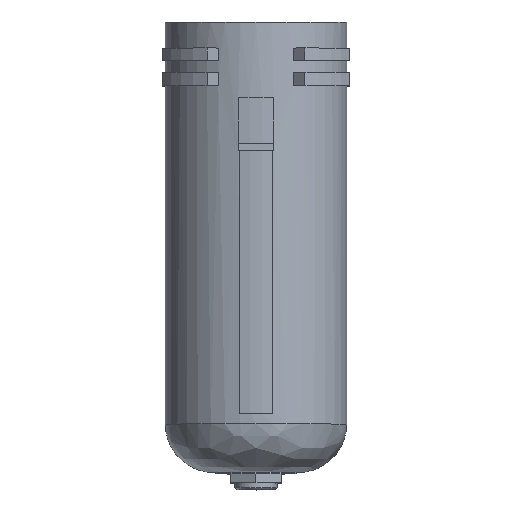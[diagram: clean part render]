
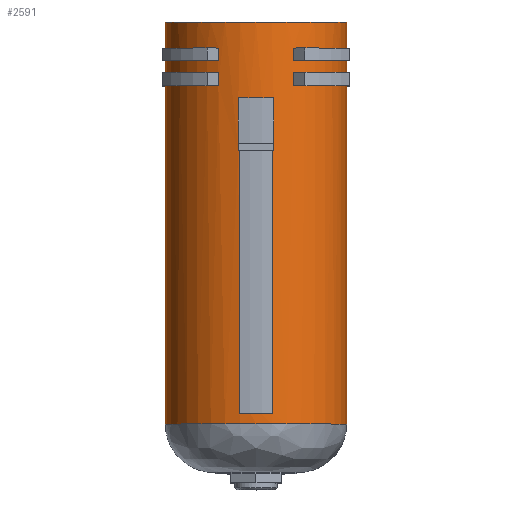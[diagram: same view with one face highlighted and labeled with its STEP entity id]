
A CAD part, top view. The second image highlights one B-rep face of the part: STEP entity #2591.
In plain terms, the highlighted cylindrical face has radius 30 mm (diameter 60 mm), a partial arc.
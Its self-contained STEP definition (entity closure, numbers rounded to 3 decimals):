
#178=DIRECTION('',(0.,-1.,0.));
#179=VECTOR('',#178,4.);
#180=CARTESIAN_POINT('',(-27.296,-8.6,12.447));
#181=LINE('',#180,#179);
#182=CARTESIAN_POINT('',(0.,-12.6,0.));
#183=DIRECTION('',(0.,-1.,0.));
#184=DIRECTION('',(-0.415,0.,0.91));
#185=AXIS2_PLACEMENT_3D('',#182,#183,#184);
#187=DIRECTION('',(0.,-1.,0.));
#188=VECTOR('',#187,4.);
#189=CARTESIAN_POINT('',(-12.447,-8.6,27.296));
#190=LINE('',#189,#188);
#191=CARTESIAN_POINT('',(0.,-8.6,0.));
#192=DIRECTION('',(0.,1.,0.));
#193=DIRECTION('',(-0.91,0.,0.415));
#194=AXIS2_PLACEMENT_3D('',#191,#192,#193);
#196=DIRECTION('',(0.,-1.,0.));
#197=VECTOR('',#196,4.);
#198=CARTESIAN_POINT('',(12.447,-8.6,27.296));
#199=LINE('',#198,#197);
#200=CARTESIAN_POINT('',(0.,-12.6,0.));
#201=DIRECTION('',(0.,-1.,0.));
#202=DIRECTION('',(0.91,0.,0.415));
#203=AXIS2_PLACEMENT_3D('',#200,#201,#202);
#205=DIRECTION('',(0.,-1.,0.));
#206=VECTOR('',#205,4.);
#207=CARTESIAN_POINT('',(27.296,-8.6,12.447));
#208=LINE('',#207,#206);
#209=CARTESIAN_POINT('',(0.,-8.6,0.));
#210=DIRECTION('',(0.,1.,0.));
#211=DIRECTION('',(0.415,0.,0.91));
#212=AXIS2_PLACEMENT_3D('',#209,#210,#211);
#214=CARTESIAN_POINT('',(0.,-133.,0.));
#215=DIRECTION('',(0.,-1.,0.));
#216=DIRECTION('',(1.,0.,0.));
#217=AXIS2_PLACEMENT_3D('',#214,#215,#216);
#219=DIRECTION('',(0.,-1.,0.));
#220=VECTOR('',#219,4.5);
#221=CARTESIAN_POINT('',(27.296,-16.6,12.447));
#222=LINE('',#221,#220);
#223=DIRECTION('',(0.,-1.,0.));
#224=VECTOR('',#223,4.5);
#225=CARTESIAN_POINT('',(12.447,-16.6,27.296));
#226=LINE('',#225,#224);
#227=CARTESIAN_POINT('',(0.,-21.1,0.));
#228=DIRECTION('',(0.,-1.,0.));
#229=DIRECTION('',(0.91,0.,0.415));
#230=AXIS2_PLACEMENT_3D('',#227,#228,#229);
#232=DIRECTION('',(0.,-1.,0.));
#233=VECTOR('',#232,4.5);
#234=CARTESIAN_POINT('',(-12.447,-16.6,27.296));
#235=LINE('',#234,#233);
#236=DIRECTION('',(0.,-1.,0.));
#237=VECTOR('',#236,4.5);
#238=CARTESIAN_POINT('',(-27.296,-16.6,12.447));
#239=LINE('',#238,#237);
#240=CARTESIAN_POINT('',(0.,-21.1,0.));
#241=DIRECTION('',(0.,-1.,0.));
#242=DIRECTION('',(-0.415,0.,0.91));
#243=AXIS2_PLACEMENT_3D('',#240,#241,#242);
#245=CARTESIAN_POINT('',(0.,-25.1,0.));
#246=DIRECTION('',(0.,-1.,0.));
#247=DIRECTION('',(0.195,0.,0.981));
#248=AXIS2_PLACEMENT_3D('',#245,#246,#247);
#250=CARTESIAN_POINT('',(0.,-42.6,0.));
#251=DIRECTION('',(0.,-1.,0.));
#252=DIRECTION('',(-0.183,0.,0.983));
#253=AXIS2_PLACEMENT_3D('',#250,#251,#252);
#255=DIRECTION('',(0.,-1.,0.));
#256=VECTOR('',#255,87.);
#257=CARTESIAN_POINT('',(-5.5,-42.6,29.492));
#258=LINE('',#257,#256);
#259=CARTESIAN_POINT('',(0.,-129.6,0.));
#260=DIRECTION('',(0.,-1.,0.));
#261=DIRECTION('',(0.183,0.,0.983));
#262=AXIS2_PLACEMENT_3D('',#259,#260,#261);
#264=DIRECTION('',(0.,-1.,0.));
#265=VECTOR('',#264,87.);
#266=CARTESIAN_POINT('',(5.5,-42.6,29.492));
#267=LINE('',#266,#265);
#268=CARTESIAN_POINT('',(0.,-42.6,0.));
#269=DIRECTION('',(0.,-1.,0.));
#270=DIRECTION('',(0.195,0.,0.981));
#271=AXIS2_PLACEMENT_3D('',#268,#269,#270);
#273=DIRECTION('',(0.,1.,0.));
#274=VECTOR('',#273,17.5);
#275=CARTESIAN_POINT('',(5.85,-42.6,29.424));
#276=LINE('',#275,#274);
#290=CARTESIAN_POINT('',(0.,-16.6,0.));
#291=DIRECTION('',(0.,-1.,0.));
#292=DIRECTION('',(0.91,0.,0.415));
#293=AXIS2_PLACEMENT_3D('',#290,#291,#292);
#300=CARTESIAN_POINT('',(0.,-16.6,0.));
#301=DIRECTION('',(0.,-1.,0.));
#302=DIRECTION('',(-0.415,0.,0.91));
#303=AXIS2_PLACEMENT_3D('',#300,#301,#302);
#383=DIRECTION('',(0.,1.,0.));
#384=VECTOR('',#383,133.);
#385=CARTESIAN_POINT('',(30.,-133.,0.));
#386=LINE('',#385,#384);
#387=DIRECTION('',(0.,1.,0.));
#388=VECTOR('',#387,133.);
#389=CARTESIAN_POINT('',(-30.,-133.,0.));
#390=LINE('',#389,#388);
#697=CARTESIAN_POINT('',(0.,0.,0.));
#698=DIRECTION('',(0.,-1.,0.));
#699=DIRECTION('',(1.,0.,0.));
#700=AXIS2_PLACEMENT_3D('',#697,#698,#699);
#819=DIRECTION('',(0.,1.,0.));
#820=VECTOR('',#819,17.5);
#821=CARTESIAN_POINT('',(-5.85,-42.6,29.424));
#822=LINE('',#821,#820);
#1716=CARTESIAN_POINT('',(30.,-133.,0.));
#1718=VERTEX_POINT('',#1716);
#1719=CARTESIAN_POINT('',(30.,0.,0.));
#1720=VERTEX_POINT('',#1719);
#1722=CARTESIAN_POINT('',(-30.,-133.,0.));
#1724=VERTEX_POINT('',#1722);
#1725=CARTESIAN_POINT('',(-30.,0.,0.));
#1726=VERTEX_POINT('',#1725);
#1735=CARTESIAN_POINT('',(5.5,-129.6,29.492));
#1736=CARTESIAN_POINT('',(-5.5,-129.6,29.492));
#1737=VERTEX_POINT('',#1735);
#1738=VERTEX_POINT('',#1736);
#1775=CARTESIAN_POINT('',(12.447,-8.6,27.296));
#1776=CARTESIAN_POINT('',(27.296,-8.6,12.447));
#1777=VERTEX_POINT('',#1775);
#1778=VERTEX_POINT('',#1776);
#1779=CARTESIAN_POINT('',(-27.296,-8.6,12.447));
#1780=CARTESIAN_POINT('',(-12.447,-8.6,27.296));
#1781=VERTEX_POINT('',#1779);
#1782=VERTEX_POINT('',#1780);
#1787=CARTESIAN_POINT('',(27.296,-21.1,12.447));
#1788=CARTESIAN_POINT('',(12.447,-21.1,27.296));
#1789=VERTEX_POINT('',#1787);
#1790=VERTEX_POINT('',#1788);
#1791=CARTESIAN_POINT('',(-12.447,-21.1,27.296));
#1792=CARTESIAN_POINT('',(-27.296,-21.1,12.447));
#1793=VERTEX_POINT('',#1791);
#1794=VERTEX_POINT('',#1792);
#1811=CARTESIAN_POINT('',(5.85,-25.1,29.424));
#1812=CARTESIAN_POINT('',(-5.85,-25.1,29.424));
#1813=VERTEX_POINT('',#1811);
#1814=VERTEX_POINT('',#1812);
#1835=CARTESIAN_POINT('',(5.85,-42.6,29.424));
#1836=CARTESIAN_POINT('',(5.5,-42.6,29.492));
#1837=VERTEX_POINT('',#1835);
#1838=VERTEX_POINT('',#1836);
#1839=CARTESIAN_POINT('',(-5.5,-42.6,29.492));
#1840=CARTESIAN_POINT('',(-5.85,-42.6,29.424));
#1841=VERTEX_POINT('',#1839);
#1842=VERTEX_POINT('',#1840);
#1896=CARTESIAN_POINT('',(27.296,-16.6,12.447));
#1898=VERTEX_POINT('',#1896);
#1900=CARTESIAN_POINT('',(27.296,-12.6,12.447));
#1902=VERTEX_POINT('',#1900);
#1903=CARTESIAN_POINT('',(12.447,-16.6,27.296));
#1905=VERTEX_POINT('',#1903);
#1907=CARTESIAN_POINT('',(12.447,-12.6,27.296));
#1909=VERTEX_POINT('',#1907);
#1935=CARTESIAN_POINT('',(-12.447,-16.6,27.296));
#1936=VERTEX_POINT('',#1935);
#1937=CARTESIAN_POINT('',(-12.447,-12.6,27.296));
#1938=VERTEX_POINT('',#1937);
#1939=CARTESIAN_POINT('',(-27.296,-16.6,12.447));
#1940=VERTEX_POINT('',#1939);
#1941=CARTESIAN_POINT('',(-27.296,-12.6,12.447));
#1942=VERTEX_POINT('',#1941);
#2519=CARTESIAN_POINT('',(0.,7.525,0.));
#2520=DIRECTION('',(0.,-1.,0.));
#2521=DIRECTION('',(-1.,0.,0.));
#2522=AXIS2_PLACEMENT_3D('',#2519,#2520,#2521);
#2523=CYLINDRICAL_SURFACE('',#2522,30.);
#2525=ORIENTED_EDGE('',*,*,#2524,.F.);
#2526=ORIENTED_EDGE('',*,*,#2514,.T.);
#2528=ORIENTED_EDGE('',*,*,#2527,.T.);
#2530=ORIENTED_EDGE('',*,*,#2529,.F.);
#2531=EDGE_LOOP('',(#2525,#2526,#2528,#2530));
#2532=FACE_OUTER_BOUND('',#2531,.F.);
#2534=ORIENTED_EDGE('',*,*,#2533,.T.);
#2536=ORIENTED_EDGE('',*,*,#2535,.F.);
#2538=ORIENTED_EDGE('',*,*,#2537,.F.);
#2540=ORIENTED_EDGE('',*,*,#2539,.F.);
#2541=EDGE_LOOP('',(#2534,#2536,#2538,#2540));
#2542=FACE_BOUND('',#2541,.F.);
#2544=ORIENTED_EDGE('',*,*,#2543,.T.);
#2546=ORIENTED_EDGE('',*,*,#2545,.F.);
#2548=ORIENTED_EDGE('',*,*,#2547,.F.);
#2550=ORIENTED_EDGE('',*,*,#2549,.F.);
#2551=EDGE_LOOP('',(#2544,#2546,#2548,#2550));
#2552=FACE_BOUND('',#2551,.F.);
#2554=ORIENTED_EDGE('',*,*,#2553,.F.);
#2556=ORIENTED_EDGE('',*,*,#2555,.T.);
#2558=ORIENTED_EDGE('',*,*,#2557,.T.);
#2560=ORIENTED_EDGE('',*,*,#2559,.F.);
#2561=EDGE_LOOP('',(#2554,#2556,#2558,#2560));
#2562=FACE_BOUND('',#2561,.F.);
#2564=ORIENTED_EDGE('',*,*,#2563,.F.);
#2566=ORIENTED_EDGE('',*,*,#2565,.T.);
#2568=ORIENTED_EDGE('',*,*,#2567,.T.);
#2570=ORIENTED_EDGE('',*,*,#2569,.F.);
#2571=EDGE_LOOP('',(#2564,#2566,#2568,#2570));
#2572=FACE_BOUND('',#2571,.F.);
#2574=ORIENTED_EDGE('',*,*,#2573,.T.);
#2576=ORIENTED_EDGE('',*,*,#2575,.F.);
#2578=ORIENTED_EDGE('',*,*,#2577,.F.);
#2580=ORIENTED_EDGE('',*,*,#2579,.T.);
#2582=ORIENTED_EDGE('',*,*,#2581,.F.);
#2584=ORIENTED_EDGE('',*,*,#2583,.F.);
#2586=ORIENTED_EDGE('',*,*,#2585,.F.);
#2588=ORIENTED_EDGE('',*,*,#2587,.T.);
#2589=EDGE_LOOP('',(#2574,#2576,#2578,#2580,#2582,#2584,#2586,#2588));
#2590=FACE_BOUND('',#2589,.F.);
#2591=ADVANCED_FACE('',(#2532,#2542,#2552,#2562,#2572,#2590),#2523,.T.);
#186=CIRCLE('',#185,30.);
#195=CIRCLE('',#194,30.);
#204=CIRCLE('',#203,30.);
#213=CIRCLE('',#212,30.);
#218=CIRCLE('',#217,30.);
#231=CIRCLE('',#230,30.);
#244=CIRCLE('',#243,30.);
#249=CIRCLE('',#248,30.);
#254=CIRCLE('',#253,30.);
#263=CIRCLE('',#262,30.);
#272=CIRCLE('',#271,30.);
#294=CIRCLE('',#293,30.);
#304=CIRCLE('',#303,30.);
#701=CIRCLE('',#700,30.);
#2514=EDGE_CURVE('',#1718,#1724,#218,.T.);
#2524=EDGE_CURVE('',#1718,#1720,#386,.T.);
#2527=EDGE_CURVE('',#1724,#1726,#390,.T.);
#2529=EDGE_CURVE('',#1720,#1726,#701,.T.);
#2533=EDGE_CURVE('',#1777,#1909,#199,.T.);
#2535=EDGE_CURVE('',#1902,#1909,#204,.T.);
#2537=EDGE_CURVE('',#1778,#1902,#208,.T.);
#2539=EDGE_CURVE('',#1777,#1778,#213,.T.);
#2543=EDGE_CURVE('',#1781,#1942,#181,.T.);
#2545=EDGE_CURVE('',#1938,#1942,#186,.T.);
#2547=EDGE_CURVE('',#1782,#1938,#190,.T.);
#2549=EDGE_CURVE('',#1781,#1782,#195,.T.);
#2553=EDGE_CURVE('',#1898,#1789,#222,.T.);
#2555=EDGE_CURVE('',#1898,#1905,#294,.T.);
#2557=EDGE_CURVE('',#1905,#1790,#226,.T.);
#2559=EDGE_CURVE('',#1789,#1790,#231,.T.);
#2563=EDGE_CURVE('',#1936,#1793,#235,.T.);
#2565=EDGE_CURVE('',#1936,#1940,#304,.T.);
#2567=EDGE_CURVE('',#1940,#1794,#239,.T.);
#2569=EDGE_CURVE('',#1793,#1794,#244,.T.);
#2573=EDGE_CURVE('',#1813,#1814,#249,.T.);
#2575=EDGE_CURVE('',#1842,#1814,#822,.T.);
#2577=EDGE_CURVE('',#1841,#1842,#254,.T.);
#2579=EDGE_CURVE('',#1841,#1738,#258,.T.);
#2581=EDGE_CURVE('',#1737,#1738,#263,.T.);
#2583=EDGE_CURVE('',#1838,#1737,#267,.T.);
#2585=EDGE_CURVE('',#1837,#1838,#272,.T.);
#2587=EDGE_CURVE('',#1837,#1813,#276,.T.);
